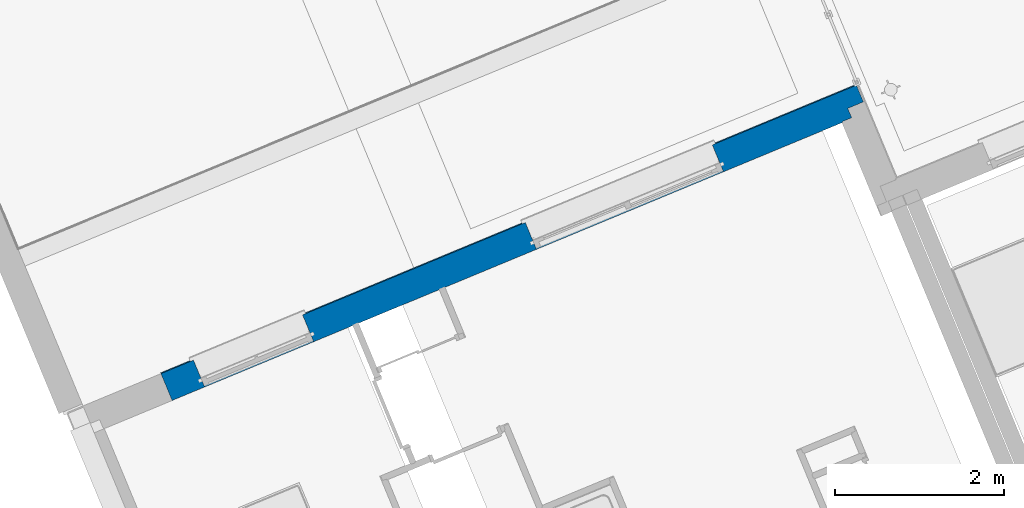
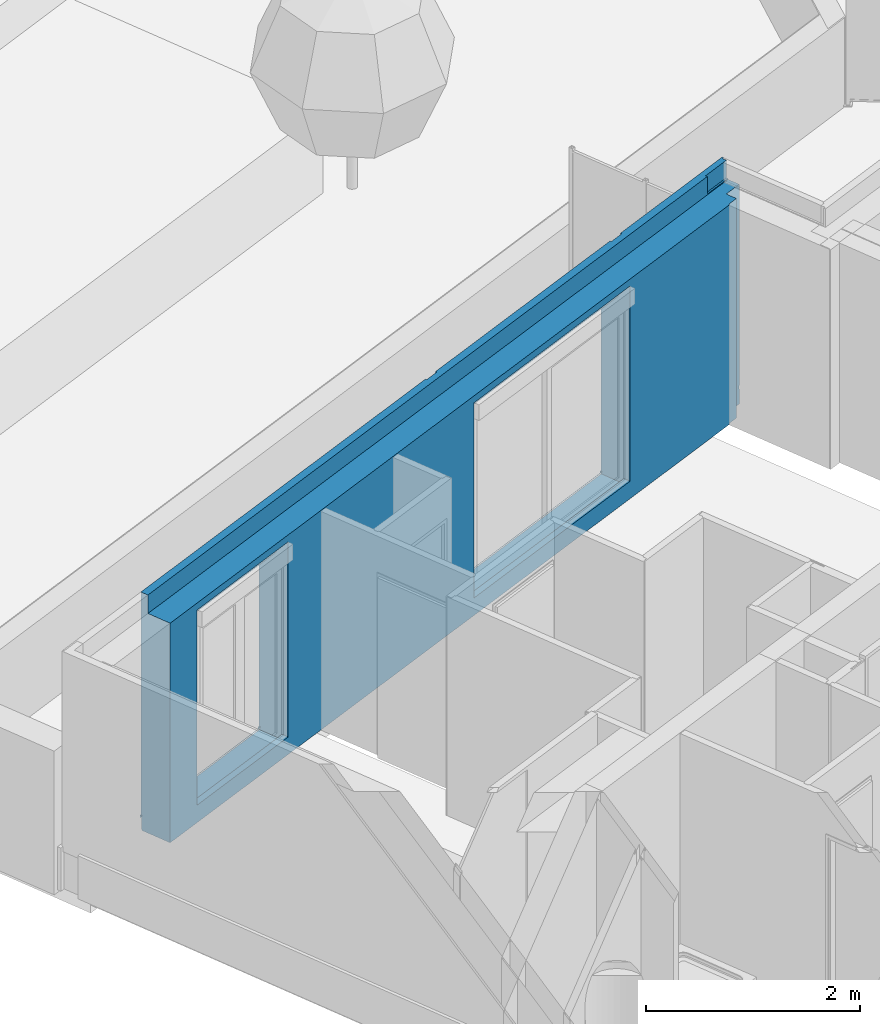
# One storey, part 14 of 119: 1 wall, 2 openings.
"""IFC2X3 building model written with IfcOpenShell, lengths in metres."""

from ifc_helpers import new_model, entity, si_unit, converted_unit, derived_unit, money_unit, direction, frame, origin_with_axes, place, context, subcontext, project, spatial, faceted_brep, material, material_list, type_object, element, save


model = new_model("IFC2X3")

# Units and contexts
model_context = context("Model", 3, precision=1e-05, world=origin_with_axes(), true_north=direction((0.0, 1.0)))
body_context = subcontext(model_context, "Body", "Model", "MODEL_VIEW")
ifc_project = project(units=[si_unit("LENGTHUNIT", "METRE"), si_unit("AREAUNIT", "SQUARE_METRE"), si_unit("VOLUMEUNIT", "CUBIC_METRE"), converted_unit("PLANEANGLEUNIT", "DEGREE", entity("IfcPlaneAngleMeasure", 0.0174532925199), si_unit("PLANEANGLEUNIT", "RADIAN"), dimensions=[0, 0, 0, 0, 0, 0, 0]), si_unit("SOLIDANGLEUNIT", "STERADIAN"), money_unit("EUR"), converted_unit("TIMEUNIT", "Year", entity("IfcTimeMeasure", 31556926.0), si_unit("TIMEUNIT", "SECOND"), dimensions=[0, 0, 1, 0, 0, 0, 0]), si_unit("MASSUNIT", "GRAM", prefix="KILO"), si_unit("THERMODYNAMICTEMPERATUREUNIT", "DEGREE_CELSIUS"), si_unit("LUMINOUSINTENSITYUNIT", "LUMEN"), si_unit("ENERGYUNIT", "JOULE", prefix="MEGA"), derived_unit("THERMALCONDUCTANCEUNIT", [(si_unit("POWERUNIT", "WATT"), 1), (si_unit("LENGTHUNIT", "METRE"), -1), (si_unit("THERMODYNAMICTEMPERATUREUNIT", "KELVIN"), -1)]), derived_unit("SPECIFICHEATCAPACITYUNIT", [(si_unit("ENERGYUNIT", "JOULE"), 1), (si_unit("MASSUNIT", "GRAM", prefix="KILO"), -1), (si_unit("THERMODYNAMICTEMPERATUREUNIT", "KELVIN"), -1)]), derived_unit("MASSDENSITYUNIT", [(si_unit("MASSUNIT", "GRAM", prefix="KILO"), 1), (si_unit("VOLUMEUNIT", "CUBIC_METRE"), -1)])], contexts=[model_context])

# Site, building, storey
site_placement = place(None, origin_with_axes())
site = spatial("IfcSite", under=ifc_project, at=site_placement, Name="Site", CompositionType="ELEMENT")
building_placement = place(site_placement, origin_with_axes())
building = spatial("IfcBuilding", under=site, at=building_placement, Name="Bâtiment", CompositionType="ELEMENT")
storey_placement = place(building_placement, origin_with_axes())
storey = spatial("IfcBuildingStorey", under=building, at=storey_placement, Name="Rez-de-chaussée", CompositionType="ELEMENT", Elevation=0.0)

# Wall, openings
ifc_material_1 = material(Name="Métal - Aluminium")
ifc_material_2 = material(Name="Finition ext - Crépis")
ifc_material_3 = material(Name="Etanchéité - Bitume")
ifc_material_4 = material(Name="Béton cellulaire")
ifc_material_5 = material(Name="Mortier")
ifc_material_6 = material(Name="Isolation - Polystyrène expansé")
ifc_material_7 = material(Name="Bloc ELITHERM")
ifc_material_8 = material(Name="Isolation - Polystyrène extrudé")
ifc_material_9 = material(Name="Finition int - Plaque de plâtre")
ifc_material_list = material_list([ifc_material_1, ifc_material_2, ifc_material_3, ifc_material_4, ifc_material_5, ifc_material_6, ifc_material_7, ifc_material_8, ifc_material_9])
wall_type = type_object("IfcWallType", Name="Mur ALKERN + planelle 21 TERRASSE RDC 356 x 2720", PredefinedType="USERDEFINED")
wall_placement = place(storey_placement, frame((-34.278339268, -17.4731210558, 0.0), z_axis=(0.0, 0.0, 1.0), x_axis=(0.923701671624, 0.383112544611, 0.0)))
wall = element("IfcWall", 1, at=wall_placement, inside=storey, type_object=wall_type, material=ifc_material_list, Name="Mue bloc ALKERN isolé", ObjectType="SOLIDWALL", context=body_context, shape_type="Brep", body=[
    faceted_brep([(7.07743341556, -0.0150000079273, 0.2), (7.07743341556, -0.0160453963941, 0.2), (7.07743341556, -0.0160453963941, 0.207793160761), (7.07743341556, -0.015, 0.207793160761), (7.07743341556, -0.0160453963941, 0.169727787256), (7.07743341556, -0.0150000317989, 0.176532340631), (7.07743341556, -0.015, 0.170774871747), (7.07743341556, 0.0114392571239, 0.16293119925), (7.07743341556, 0.0114392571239, 0.14), (7.07743341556, 0.0102051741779, 0.14), (7.07743341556, 0.0102051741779, 0.161852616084), (7.07743341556, -0.015, 0.169414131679), (8.93154606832, -0.0160453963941, 0.169727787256), (8.92801657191, -0.0160453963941, 0.170774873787), (8.9280165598, -0.0160453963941, 0.176532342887), (8.9280165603, -0.0160453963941, 0.207793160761), (8.9280165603, -0.015, 0.207793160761), (8.9280165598, -0.0150000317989, 0.176532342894), (8.92801657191, -0.015, 0.170774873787), (8.95445586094, 0.0114392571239, 0.162931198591), (8.95445586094, 0.0114392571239, 0.133633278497), (0.0, 0.0114392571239, 0.133633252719), (0.0, 0.0114392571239, 0.162931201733), (0.417748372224, 0.0114392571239, 0.162931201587), (0.417748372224, 0.0114392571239, 0.14), (1.81774837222, 0.0114392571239, 0.14), (1.81774837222, 0.0114392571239, 0.162931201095), (4.67743341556, 0.0114392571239, 0.162931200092), (4.67743341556, 0.0114392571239, 0.14), (4.67743341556, 0.0102051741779, 0.14), (4.67743341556, 0.0102051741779, 0.161852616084), (1.81774837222, 0.0102051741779, 0.161852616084), (1.81774837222, 0.0102051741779, 0.14), (0.417748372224, 0.0102051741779, 0.14), (0.417748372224, 0.0102051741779, 0.161852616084), (0.0, 0.0102051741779, 0.161852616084), (0.0, 0.0102051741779, 0.133633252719), (8.95445586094, 0.0102051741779, 0.133633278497), (8.95445586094, 0.0102051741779, 0.161852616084), (8.95445586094, 0.00660988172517, 0.162931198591), (8.93260333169, -0.015, 0.169414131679), (0.0, -0.0160453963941, 0.207793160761), (0.0, -0.015, 0.207793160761), (0.0, -0.0150000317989, 0.176532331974), (0.0, -0.015, 0.170774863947), (0.0, -0.015, 0.169414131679), (0.0, -0.0160453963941, 0.169727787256), (0.417748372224, -0.015, 0.170774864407), (0.417748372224, -0.0150000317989, 0.176532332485), (0.417748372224, -0.0150000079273, 0.2), (0.417748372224, -0.0160453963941, 0.2), (0.417748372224, -0.0160453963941, 0.169727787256), (0.417748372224, -0.015, 0.169414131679), (1.81774837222, -0.015, 0.17077486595), (1.81774837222, -0.015, 0.169414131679), (1.81774837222, -0.0160453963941, 0.169727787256), (1.81774837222, -0.0160453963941, 0.2), (1.81774837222, -0.0150000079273, 0.2), (1.81774837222, -0.0150000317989, 0.176532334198), (4.67743341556, -0.015, 0.170774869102), (4.67743341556, -0.0150000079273, 0.2), (4.67743341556, -0.0160453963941, 0.2), (4.67743341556, -0.0160453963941, 0.169727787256), (4.67743341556, -0.015, 0.169414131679), (4.67743341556, -0.0150000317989, 0.176532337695), (0.417748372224, -0.0160453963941, 0.207793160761), (0.417748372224, -0.015, 0.207793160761), (4.67743341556, -0.0160453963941, 0.207793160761), (1.81774837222, -0.0160453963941, 0.207793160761), (1.81774837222, -0.015, 0.207793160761), (4.67743341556, -0.015, 0.207793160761)], [[[0, 1, 2, 3]], [[4, 1, 0, 5, 6, 7, 8, 9, 10, 11]], [[1, 4, 12, 13, 14, 15, 2]], [[2, 15, 16, 3]], [[5, 0, 3, 16, 17]], [[6, 5, 17, 18]], [[7, 6, 18, 19]], [[8, 7, 19, 20, 21, 22, 23, 24, 25, 26, 27, 28]], [[29, 9, 8, 28]], [[29, 30, 31, 32, 33, 34, 35, 36, 37, 38, 10, 9]], [[11, 10, 38, 39, 40]], [[4, 11, 40, 12]], [[12, 40, 39, 19, 18, 13]], [[17, 14, 13, 18]], [[16, 15, 14, 17]], [[37, 20, 19, 39, 38]], [[21, 20, 37, 36]], [[41, 42, 43, 44, 22, 21, 36, 35, 45, 46]], [[22, 44, 47, 23]], [[34, 33, 24, 23, 47, 48, 49, 50, 51, 52]], [[25, 24, 33, 32]], [[53, 26, 25, 32, 31, 54, 55, 56, 57, 58]], [[59, 27, 26, 53]], [[60, 61, 62, 63, 30, 29, 28, 27, 59, 64]], [[30, 63, 54, 31]], [[45, 35, 34, 52]], [[41, 65, 66, 42]], [[66, 49, 48, 43, 42]], [[44, 43, 48, 47]], [[46, 45, 52, 51]], [[46, 51, 50, 65, 41]], [[66, 65, 50, 49]], [[63, 62, 55, 54]], [[62, 61, 67, 68, 56, 55]], [[68, 69, 57, 56]], [[60, 64, 58, 57, 69, 70]], [[64, 59, 53, 58]], [[61, 60, 70, 67]], [[70, 69, 68, 67]]]),
    faceted_brep([(7.07743341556, -0.0149999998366, 0.2), (7.07743341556, -0.0150000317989, 0.176532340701), (8.94301662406, -0.0150000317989, 0.176532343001), (8.94301662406, -0.0150000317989, 2.51), (8.94301660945, -0.0149999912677, 2.71999999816), (7.37743341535, -0.0150000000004, 2.72), (7.37743341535, -0.0150000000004, 2.51999999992), (7.37743341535, -0.0150000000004, 2.51872065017), (7.37743341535, -0.0150000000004, 2.51), (7.36243341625, -0.0150000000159, 2.51), (7.34269243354, -0.0150000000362, 2.51), (7.21743341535, -0.0150000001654, 2.51), (7.21743341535, -0.0150000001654, 2.51872065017), (7.21743341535, -0.0150000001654, 2.51999999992), (7.21743341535, -0.0150000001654, 2.72), (4.53743341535, -0.0149999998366, 2.72), (4.53743341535, -0.0149999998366, 2.51999999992), (4.53743341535, -0.0149999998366, 2.50955), (4.53743341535, -0.0149999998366, 2.50872065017), (4.53743341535, -0.0149999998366, 2.5), (4.41217439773, -0.0149999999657, 2.5), (4.39243341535, -0.0149999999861, 2.5), (4.37743341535, -0.0150000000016, 2.5), (4.37743341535, -0.0150000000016, 2.50872065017), (4.37743341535, -0.0150000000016, 2.50955), (4.37743341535, -0.0150000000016, 2.51999999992), (4.37743341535, -0.0150000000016, 2.72), (0.0, -0.0149999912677, 2.72), (0.0, -0.0150000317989, 0.176532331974), (0.417748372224, -0.0150000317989, 0.176532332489), (0.417748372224, -0.0149999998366, 0.2), (0.417748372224, -0.0149999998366, 2.25), (1.81774837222, -0.0149999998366, 2.25), (1.81774837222, -0.0149999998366, 0.2), (1.81774837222, -0.0150000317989, 0.176532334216), (4.67743341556, -0.0150000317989, 0.176532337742), (4.67743341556, -0.0149999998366, 0.2), (4.67743341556, -0.0149999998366, 2.25), (7.07743341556, -0.0149999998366, 2.25), (7.07743341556, -3.18861737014e-09, 0.2), (7.07743341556, -3.18861737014e-09, 0.176532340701), (8.94301662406, -3.1886191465e-09, 0.176532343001), (8.94301662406, -3.1886191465e-09, 2.51), (8.94301660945, -3.1886191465e-09, 2.71999999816), (7.37743341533, -3.18862092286e-09, 2.72), (7.37743341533, -3.18862092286e-09, 2.51999999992), (7.37743341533, -3.18862092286e-09, 2.51872065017), (7.37743341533, -3.18862092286e-09, 2.51), (7.36243341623, -3.1886191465e-09, 2.51), (7.34269243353, -3.1886191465e-09, 2.51), (7.21743341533, -3.1886191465e-09, 2.51), (7.21743341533, -3.1886191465e-09, 2.51872065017), (7.21743341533, -3.1886191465e-09, 2.51999999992), (7.21743341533, -3.1886191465e-09, 2.72), (4.53743341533, -3.18862092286e-09, 2.72), (4.53743341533, -3.1886191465e-09, 2.51999999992), (4.53743341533, -3.1886191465e-09, 2.50955), (4.53743341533, -3.1886191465e-09, 2.50872065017), (4.53743341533, -3.1886191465e-09, 2.5), (4.41217439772, -3.1886191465e-09, 2.5), (4.39243341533, -3.1886191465e-09, 2.5), (4.37743341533, -3.1886191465e-09, 2.5), (4.37743341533, -3.1886191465e-09, 2.50872065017), (4.37743341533, -3.1886191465e-09, 2.50955), (4.37743341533, -3.1886191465e-09, 2.51999999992), (4.37743341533, -3.1886191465e-09, 2.72), (0.0, -3.1886191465e-09, 2.72), (0.0, -3.1886191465e-09, 0.176532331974), (0.417748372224, -3.18862092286e-09, 0.176532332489), (0.417748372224, -3.18862092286e-09, 0.2), (0.417748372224, -3.18862092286e-09, 2.25), (1.81774837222, -3.18862092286e-09, 2.25), (1.81774837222, -3.18862092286e-09, 0.2), (1.81774837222, -3.18861737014e-09, 0.176532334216), (4.67743341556, -3.1886191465e-09, 0.176532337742), (4.67743341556, -3.1886191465e-09, 0.2), (4.67743341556, -3.1886191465e-09, 2.25), (7.07743341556, -3.18861737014e-09, 2.25)], [[[0, 1, 2, 3, 4, 5, 6, 7, 8, 9, 10, 11, 12, 13, 14, 15, 16, 17, 18, 19, 20, 21, 22, 23, 24, 25, 26, 27, 28, 29, 30, 31, 32, 33, 34, 35, 36, 37, 38]], [[1, 0, 39, 40]], [[1, 40, 41, 2]], [[41, 42, 3, 2]], [[4, 3, 42, 43]], [[44, 5, 4, 43]], [[6, 5, 44, 45]], [[6, 45, 46, 7]], [[7, 46, 47, 8]], [[48, 9, 8, 47]], [[49, 10, 9, 48]], [[11, 10, 49, 50]], [[51, 12, 11, 50]], [[52, 13, 12, 51]], [[53, 14, 13, 52]], [[54, 15, 14, 53]], [[16, 15, 54, 55]], [[16, 55, 56, 17]], [[17, 56, 57, 18]], [[18, 57, 58, 19]], [[59, 20, 19, 58]], [[60, 21, 20, 59]], [[22, 21, 60, 61]], [[62, 23, 22, 61]], [[63, 24, 23, 62]], [[64, 25, 24, 63]], [[65, 26, 25, 64]], [[26, 65, 66, 27]], [[28, 27, 66, 67]], [[28, 67, 68, 29]], [[29, 68, 69, 30]], [[70, 31, 30, 69]], [[71, 32, 31, 70]], [[32, 71, 72, 33]], [[72, 73, 34, 33]], [[74, 35, 34, 73]], [[75, 36, 35, 74]], [[36, 75, 76, 37]], [[37, 76, 77, 38]], [[39, 0, 38, 77]], [[40, 39, 77, 76, 75, 74, 73, 72, 71, 70, 69, 68, 67, 66, 65, 64, 63, 62, 61, 60, 59, 58, 57, 56, 55, 54, 53, 52, 51, 50, 49, 48, 47, 46, 45, 44, 43, 42, 41]]]),
    faceted_brep([(7.07743341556, -0.005, 0.160000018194), (7.07743341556, -0.0150000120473, 0.160000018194), (8.93801659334, -0.0150000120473, 0.160000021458), (8.93801659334, -0.005, 0.160000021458), (7.07743341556, -0.0149999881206, 0.14), (7.07743341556, -0.005, 0.14), (4.67743341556, -0.0149999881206, 0.14), (4.67743341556, -0.0150000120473, 0.160000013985), (1.81774837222, -0.0150000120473, 0.160000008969), (1.81774837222, -0.0149999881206, 0.14), (0.417748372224, -0.0149999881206, 0.14), (0.417748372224, -0.0150000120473, 0.160000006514), (0.0, -0.0150000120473, 0.160000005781), (0.0, -0.0149999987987, 0.01), (8.93801658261, -0.0150000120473, 0.01), (8.93801659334, -0.0150000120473, 0.133633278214), (8.93801659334, -0.005, 0.133633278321), (8.93801658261, -0.005, 0.01), (0.0, -0.005, 0.01), (0.0, -0.005, 0.160000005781), (0.417748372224, -0.00500000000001, 0.160000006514), (0.417748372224, -0.005, 0.14), (1.81774837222, -0.005, 0.14), (1.81774837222, -0.005, 0.160000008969), (4.67743341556, -0.005, 0.160000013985), (4.67743341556, -0.005, 0.14)], [[[0, 1, 2, 3]], [[4, 1, 0, 5]], [[6, 7, 8, 9, 10, 11, 12, 13, 14, 15, 2, 1, 4]], [[2, 15, 16, 3]], [[5, 0, 3, 16, 17, 18, 19, 20, 21, 22, 23, 24, 25]], [[6, 4, 5, 25]], [[24, 7, 6, 25]], [[7, 24, 23, 8]], [[8, 23, 22, 9]], [[9, 22, 21, 10]], [[11, 10, 21, 20]], [[20, 19, 12, 11]], [[12, 19, 18, 13]], [[13, 18, 17, 14]], [[16, 15, 14, 17]]]),
    faceted_brep([(8.92801659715, -0.0630000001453, 2.51999999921), (8.92801660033, -0.0630000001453, 2.71999999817), (0.0, -0.0630000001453, 2.72), (0.0, -0.0630000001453, 2.51999999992), (8.92801660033, -0.0149999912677, 2.71999999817), (8.92801659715, -0.0149999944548, 2.51999999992), (0.0, -0.015, 2.72), (0.0, -0.015, 2.51999999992)], [[[0, 1, 2, 3]], [[4, 1, 0, 5]], [[1, 4, 6, 2]], [[7, 3, 2, 6]], [[5, 0, 3, 7]], [[4, 5, 7, 6]]]),
    faceted_brep([(8.92801659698, -0.083, 2.50955000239), (8.92801659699, -0.083, 2.51), (8.92801659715, -0.083, 2.51999999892), (0.0, -0.083, 2.52), (0.0, -0.083, 2.50955), (8.92801659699, -0.0149999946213, 2.51), (8.92801659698, -0.015, 2.50955000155), (8.92801659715, -0.0149999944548, 2.51999999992), (0.0, -0.015, 2.52), (0.0, -0.015, 2.50955)], [[[0, 1, 2, 3, 4]], [[5, 1, 0, 6]], [[1, 5, 7, 2]], [[2, 7, 8, 3]], [[4, 3, 8, 9]], [[6, 0, 4, 9]], [[5, 6, 9, 8, 7]]]),
    faceted_brep([(8.60801659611, -0.0830000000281, 2.51999999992), (8.60801659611, -0.0830000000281, 2.71999999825), (0.0, -0.0830000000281, 2.72), (0.0, -0.0830000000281, 2.51999999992), (8.6080165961, -0.0630000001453, 2.71999999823), (8.6080165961, -0.0630000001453, 2.51999999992), (0.0, -0.0630000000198, 2.72), (0.0, -0.0630000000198, 2.51999999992)], [[[0, 1, 2, 3]], [[4, 1, 0, 5]], [[1, 4, 6, 2]], [[2, 6, 7, 3]], [[5, 0, 3, 7]], [[4, 5, 7, 6]]]),
    faceted_brep([(7.07743341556, -0.0160453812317, 0.2), (7.07743341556, -0.214999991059, 0.2), (7.07743341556, -0.214999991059, 2.25), (7.07743341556, -0.203560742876, 2.25), (7.07743341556, -0.015, 2.25), (7.07743341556, -0.015, 0.207793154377), (7.07743341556, -0.0160453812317, 0.20779315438), (7.07743341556, -0.214999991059, 0.14), (7.07743341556, -0.0160453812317, 0.169727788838), (7.07743341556, -0.015, 0.169414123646), (7.07743341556, -0.0150000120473, 0.160000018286), (7.07743341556, -0.0150000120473, 0.14), (8.92801657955, -0.214999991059, 0.0), (8.92801657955, -0.214999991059, 0.133633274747), (8.92801657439, -0.214999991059, 0.160000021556), (8.9280166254, -0.214999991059, 0.169414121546), (8.92697119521, -0.214999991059, 0.169727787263), (8.92697119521, -0.214999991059, 0.176532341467), (8.92697119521, -0.214999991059, 0.207793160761), (8.9280165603, -0.214999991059, 0.207793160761), (8.92801659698, -0.214999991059, 2.50955000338), (0.0, -0.214999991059, 2.50955001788), (0.0, -0.214999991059, 0.0), (1.81774837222, -0.214999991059, 0.14), (0.417748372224, -0.214999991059, 0.14), (0.417748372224, -0.214999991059, 0.2), (0.417748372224, -0.214999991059, 2.25), (0.417748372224, -0.214999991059, 2.43), (1.81774837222, -0.214999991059, 2.43), (1.81774837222, -0.214999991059, 2.25), (1.81774837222, -0.214999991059, 0.2), (4.67743341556, -0.214999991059, 0.14), (4.67743341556, -0.214999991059, 0.2), (4.67743341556, -0.214999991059, 2.25), (4.67743341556, -0.214999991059, 2.43), (7.07743341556, -0.214999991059, 2.43), (7.07743341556, -0.203560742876, 2.43), (4.67743341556, -0.203560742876, 2.25), (4.67743341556, -0.015, 2.25), (0.0, -0.015, 0.207793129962), (0.0, -0.015, 2.50955001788), (8.92801659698, -0.015, 2.50955000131), (8.9280165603, -0.015, 0.207793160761), (4.67743341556, -0.015, 0.207793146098), (1.81774837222, -0.015, 0.207793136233), (1.81774837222, -0.015, 2.25), (0.417748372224, -0.015, 2.25), (0.417748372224, -0.015, 0.207793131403), (8.92697119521, -0.0160453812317, 0.207793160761), (8.9280165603, -0.0160453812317, 0.207793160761), (8.92697119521, -0.0160453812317, 0.176532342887), (8.92697119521, -0.0160453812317, 0.169727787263), (8.9280166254, -0.015, 0.169414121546), (8.92801657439, -0.0150000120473, 0.160000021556), (8.92801657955, -0.0150000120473, 0.133633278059), (8.92801657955, -0.015, 0.0), (0.0, -0.015, 0.0), (0.0, -0.0150000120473, 0.160000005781), (0.417748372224, -0.0150000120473, 0.160000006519), (0.417748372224, -0.015, 0.14), (1.81774837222, -0.015, 0.14), (1.81774837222, -0.0150000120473, 0.160000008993), (4.67743341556, -0.0150000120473, 0.160000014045), (4.67743341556, -0.0150000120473, 0.14), (8.92801659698, -0.0829999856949, 2.50955000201), (0.0, -0.0829999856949, 2.50955001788), (0.0, -0.0160453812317, 0.207793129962), (0.0, -0.0160453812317, 0.169727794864), (0.0, -0.015, 0.169414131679), (0.417748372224, -0.015, 0.169414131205), (0.417748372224, -0.0160453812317, 0.169727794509), (0.417748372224, -0.0160453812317, 0.2), (0.417748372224, -0.203560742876, 2.25), (0.417748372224, -0.0160453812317, 0.207793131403), (0.417748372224, -0.203560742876, 2.43), (1.81774837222, -0.203560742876, 2.43), (1.81774837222, -0.203560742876, 2.25), (1.81774837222, -0.0160453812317, 0.207793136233), (1.81774837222, -0.0160453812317, 0.2), (1.81774837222, -0.0160453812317, 0.169727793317), (1.81774837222, -0.015, 0.169414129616), (4.67743341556, -0.0160453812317, 0.2), (4.67743341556, -0.015, 0.16941412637), (4.67743341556, -0.0160453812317, 0.169727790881), (4.67743341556, -0.0160453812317, 0.2077931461), (4.67743341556, -0.203560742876, 2.43)], [[[0, 1, 2, 3, 4, 5, 6]], [[7, 1, 0, 8, 9, 10, 11]], [[12, 13, 14, 15, 16, 17, 18, 19, 20, 21, 22], [23, 24, 25, 26, 27, 28, 29, 30], [31, 32, 33, 34, 35, 2, 1, 7]], [[35, 36, 3, 2]], [[37, 38, 4, 3]], [[39, 40, 41, 42, 5, 4, 38, 43, 44, 45, 46, 47]], [[48, 6, 5, 42, 49]], [[8, 0, 6, 48, 50, 51]], [[9, 8, 51, 52]], [[10, 9, 52, 53]], [[11, 10, 53, 54, 55, 56, 57, 58, 59, 60, 61, 62, 63]], [[31, 7, 11, 63]], [[54, 13, 12, 55]], [[13, 54, 53, 14]], [[53, 52, 15, 14]], [[51, 16, 15, 52]], [[17, 16, 51, 50]], [[17, 50, 48, 18]], [[18, 48, 49, 19]], [[64, 20, 19, 49, 42, 41]], [[65, 21, 20, 64]], [[57, 56, 22, 21, 65, 40, 39, 66, 67, 68]], [[12, 22, 56, 55]], [[59, 24, 23, 60]], [[69, 70, 71, 25, 24, 59, 58]], [[72, 26, 25, 71, 73, 47, 46]], [[27, 26, 72, 74]], [[28, 27, 74, 75]], [[29, 28, 75, 76]], [[44, 77, 78, 30, 29, 76, 45]], [[61, 60, 23, 30, 78, 79, 80]], [[81, 32, 31, 63, 62, 82, 83]], [[32, 81, 84, 43, 38, 37, 33]], [[33, 37, 85, 34]], [[34, 85, 36, 35]], [[3, 36, 85, 37]], [[40, 65, 64, 41]], [[77, 44, 43, 84]], [[76, 72, 46, 45]], [[73, 66, 39, 47]], [[68, 69, 58, 57]], [[82, 62, 61, 80]], [[70, 67, 66, 73, 71]], [[67, 70, 69, 68]], [[72, 76, 75, 74]], [[81, 83, 79, 78, 77, 84]], [[83, 82, 80, 79]]]),
    faceted_brep([(7.07743341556, -0.233560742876, 0.2), (7.07743341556, -0.274560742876, 0.2), (7.07743341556, -0.335000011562, 0.2), (7.07743341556, -0.335000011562, 2.25), (7.07743341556, -0.233560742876, 2.25), (7.07743341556, -0.21499997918, 0.2), (7.07743341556, -0.21499997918, 0.14), (7.07743341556, -0.274560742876, 0.14), (4.67743341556, -0.274560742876, 0.2), (4.67743341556, -0.335000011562, 0.2), (0.0, -0.335000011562, 2.50955001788), (0.0, -0.335000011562, 0.0), (8.72801660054, -0.335000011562, 0.0), (8.72801660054, -0.335000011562, 0.133633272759), (8.72801660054, -0.335000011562, 0.160000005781), (8.72801660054, -0.335000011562, 0.169414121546), (8.72801660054, -0.335000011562, 0.17653234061), (8.72801660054, -0.335000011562, 0.207793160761), (8.72801660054, -0.335000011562, 2.50955001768), (1.81774837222, -0.335000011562, 2.25), (1.81774837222, -0.335000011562, 0.2), (0.417748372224, -0.335000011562, 0.2), (0.417748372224, -0.335000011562, 2.25), (0.417748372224, -0.335000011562, 2.43), (1.81774837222, -0.335000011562, 2.43), (4.67743341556, -0.335000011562, 2.25), (4.67743341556, -0.335000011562, 2.43), (7.07743341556, -0.335000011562, 2.43), (7.07743341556, -0.21499997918, 2.43), (7.07743341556, -0.21499997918, 2.25), (8.72801660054, -0.21499997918, 0.176532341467), (8.72801660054, -0.21499997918, 0.169414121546), (8.72801660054, -0.21499997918, 0.160000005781), (8.72801660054, -0.21499997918, 0.133633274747), (8.72801660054, -0.21499997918, 0.0), (0.0, -0.21499997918, 0.0), (0.0, -0.21499997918, 2.50955001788), (8.72801660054, -0.21499997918, 2.50955001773), (8.72801660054, -0.21499997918, 0.207793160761), (0.417748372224, -0.21499997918, 2.43), (0.417748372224, -0.21499997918, 2.25), (0.417748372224, -0.21499997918, 0.2), (0.417748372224, -0.21499997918, 0.14), (1.81774837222, -0.21499997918, 0.14), (1.81774837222, -0.21499997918, 0.2), (1.81774837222, -0.21499997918, 2.25), (1.81774837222, -0.21499997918, 2.43), (4.67743341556, -0.21499997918, 2.43), (4.67743341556, -0.21499997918, 2.25), (4.67743341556, -0.21499997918, 0.2), (4.67743341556, -0.21499997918, 0.14), (4.67743341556, -0.274560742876, 0.14), (4.67743341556, -0.233560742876, 0.2), (4.67743341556, -0.233560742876, 2.25), (1.81774837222, -0.233560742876, 2.25), (1.81774837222, -0.233560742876, 0.2), (1.81774837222, -0.274560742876, 0.2), (0.417748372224, -0.274560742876, 0.2), (0.417748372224, -0.233560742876, 0.2), (0.417748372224, -0.233560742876, 2.25), (0.417748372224, -0.274560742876, 0.14), (1.81774837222, -0.274560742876, 0.14)], [[[0, 1, 2, 3, 4]], [[1, 0, 5, 6, 7]], [[1, 8, 9, 2]], [[10, 11, 12, 13, 14, 15, 16, 17, 18], [19, 20, 21, 22, 23, 24], [3, 2, 9, 25, 26, 27]], [[28, 29, 4, 3, 27]], [[5, 0, 4, 29]], [[30, 31, 32, 33, 34, 35, 36, 37, 38], [39, 40, 41, 42, 43, 44, 45, 46], [6, 5, 29, 28, 47, 48, 49, 50]], [[6, 50, 51, 7]], [[8, 1, 7, 51]], [[8, 52, 53, 25, 9]], [[10, 36, 35, 11]], [[12, 11, 35, 34]], [[13, 12, 34, 33]], [[32, 14, 13, 33]], [[14, 32, 31, 15]], [[16, 15, 31, 30]], [[30, 38, 17, 16]], [[38, 37, 18, 17]], [[10, 18, 37, 36]], [[19, 54, 55, 56, 20]], [[56, 57, 21, 20]], [[22, 21, 57, 58, 59]], [[23, 22, 59, 40, 39]], [[23, 39, 46, 24]], [[19, 24, 46, 45, 54]], [[53, 48, 47, 26, 25]], [[26, 47, 28, 27]], [[58, 41, 40, 59]], [[42, 41, 58, 57, 60]], [[43, 42, 60, 61]], [[43, 61, 56, 55, 44]], [[44, 55, 54, 45]], [[52, 49, 48, 53]], [[52, 8, 51, 50, 49]], [[57, 56, 61, 60]]]),
    faceted_brep([(8.60801658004, -0.344999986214, 0.133633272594), (8.60801658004, -0.344999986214, 0.160000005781), (8.60801658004, -0.344999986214, 0.169414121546), (8.60801658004, -0.344999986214, 0.176532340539), (8.60801658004, -0.344999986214, 0.207793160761), (8.60801658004, -0.344999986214, 2.50955001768), (0.0, -0.344999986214, 2.50955001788), (0.0, -0.344999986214, 0.0), (8.60801658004, -0.344999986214, 0.0), (0.417748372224, -0.344999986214, 2.25), (0.417748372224, -0.344999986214, 2.43), (1.81774837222, -0.344999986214, 2.43), (1.81774837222, -0.344999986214, 2.25), (1.81774837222, -0.344999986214, 0.2), (0.417748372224, -0.344999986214, 0.2), (4.67743341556, -0.344999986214, 2.25), (4.67743341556, -0.344999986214, 2.43), (7.07743341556, -0.344999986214, 2.43), (7.07743341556, -0.344999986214, 2.25), (7.07743341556, -0.344999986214, 0.2), (4.67743341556, -0.344999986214, 0.2), (8.60801658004, -0.335000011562, 0.133633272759), (8.60801658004, -0.335000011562, 0.160000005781), (8.60801658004, -0.335000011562, 0.169414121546), (8.60801658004, -0.335000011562, 0.17653234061), (8.60801658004, -0.335000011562, 0.207793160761), (8.60801658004, -0.335000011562, 2.50955001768), (0.0, -0.335000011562, 2.50955001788), (0.0, -0.335000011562, 0.0), (8.60801658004, -0.335000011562, 0.0), (0.417748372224, -0.335000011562, 2.25), (0.417748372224, -0.335000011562, 2.43), (1.81774837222, -0.335000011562, 2.43), (1.81774837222, -0.335000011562, 2.25), (1.81774837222, -0.335000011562, 0.2), (0.417748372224, -0.335000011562, 0.2), (4.67743341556, -0.335000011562, 2.25), (4.67743341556, -0.335000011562, 2.43), (7.07743341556, -0.335000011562, 2.43), (7.07743341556, -0.335000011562, 2.25), (7.07743341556, -0.335000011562, 0.2), (4.67743341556, -0.335000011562, 0.2)], [[[0, 1, 2, 3, 4, 5, 6, 7, 8], [9, 10, 11, 12, 13, 14], [15, 16, 17, 18, 19, 20]], [[1, 0, 21, 22]], [[23, 2, 1, 22]], [[24, 3, 2, 23]], [[24, 25, 4, 3]], [[25, 26, 5, 4]], [[6, 5, 26, 27]], [[7, 6, 27, 28]], [[29, 8, 7, 28]], [[0, 8, 29, 21]], [[30, 31, 10, 9]], [[31, 32, 11, 10]], [[32, 33, 12, 11]], [[34, 13, 12, 33]], [[35, 14, 13, 34]], [[14, 35, 30, 9]], [[16, 15, 36, 37]], [[17, 16, 37, 38]], [[18, 17, 38, 39]], [[18, 39, 40, 19]], [[19, 40, 41, 20]], [[36, 15, 20, 41]], [[21, 29, 28, 27, 26, 25, 24, 23, 22], [31, 30, 35, 34, 33, 32], [37, 36, 41, 40, 39, 38]]]),
])
opening_1_placement = place(wall_placement, frame((1.11774837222, 0.0, 0.2), z_axis=(0.0, 0.0, 1.0), x_axis=(1.0, 0.0, 0.0)))
element("IfcOpeningElement", 2, at=opening_1_placement, cuts=wall, Name="MEN 21", context=body_context, shape_type="Brep", body=[
    faceted_brep([(0.7, -0.834999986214, 0.0), (-0.7, -0.834999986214, 0.0), (-0.7, -0.233560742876, 0.0), (0.7, -0.233560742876, 0.0), (0.7, -0.834999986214, 2.05), (-0.7, -0.834999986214, 2.05), (-0.7, -0.233560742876, 2.05), (0.7, -0.233560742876, 2.05)], [[[0, 1, 2, 3]], [[0, 4, 5, 1]], [[1, 5, 6, 2]], [[3, 2, 6, 7]], [[4, 0, 3, 7]], [[5, 4, 7, 6]]]),
    faceted_brep([(0.7, 0.367878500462, 0.0), (0.7, 0.367878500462, 2.05), (0.7, -0.233560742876, 2.05), (0.7, -0.233560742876, 0.0), (-0.7, 0.367878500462, 0.0), (-0.7, 0.367878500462, 2.05), (-0.7, -0.233560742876, 2.05), (-0.7, -0.233560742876, 0.0)], [[[0, 1, 2, 3]], [[0, 4, 5, 1]], [[1, 5, 6, 2]], [[3, 2, 6, 7]], [[4, 0, 3, 7]], [[5, 4, 7, 6]]]),
    faceted_brep([(0.7, 0.367878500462, 0.0), (0.7, 0.367878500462, 2.05), (0.7, -0.233560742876, 2.05), (0.7, -0.233560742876, 0.0), (-0.7, 0.367878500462, 0.0), (-0.7, 0.367878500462, 2.05), (-0.7, -0.233560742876, 2.05), (-0.7, -0.233560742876, 0.0)], [[[0, 1, 2, 3]], [[0, 4, 5, 1]], [[1, 5, 6, 2]], [[3, 2, 6, 7]], [[4, 0, 3, 7]], [[5, 4, 7, 6]]]),
    faceted_brep([(0.7, -0.804999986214, 2.05), (-0.7, -0.804999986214, 2.05), (-0.7, -0.203560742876, 2.05), (0.7, -0.203560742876, 2.05), (0.7, -0.804999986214, 2.23), (-0.7, -0.804999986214, 2.23), (-0.7, -0.203560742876, 2.23), (0.7, -0.203560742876, 2.23)], [[[0, 1, 2, 3]], [[0, 4, 5, 1]], [[1, 5, 6, 2]], [[3, 2, 6, 7]], [[4, 0, 3, 7]], [[5, 4, 7, 6]]]),
    faceted_brep([(0.7, 0.326878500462, 0.0), (-0.7, 0.326878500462, 0.0), (-0.7, -0.274560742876, 0.0), (0.7, -0.274560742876, 0.0), (0.7, 0.326878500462, -0.06), (-0.7, 0.326878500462, -0.06), (-0.7, -0.274560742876, -0.06), (0.7, -0.274560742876, -0.06)], [[[0, 1, 2, 3]], [[0, 4, 5, 1]], [[1, 5, 6, 2]], [[3, 2, 6, 7]], [[4, 0, 3, 7]], [[5, 4, 7, 6]]]),
])
opening_2_placement = place(wall_placement, frame((5.87743341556, 0.0, 0.2), z_axis=(0.0, 0.0, 1.0), x_axis=(1.0, 0.0, 0.0)))
element("IfcOpeningElement", 3, at=opening_2_placement, cuts=wall, Name="MEN 20", context=body_context, shape_type="Brep", body=[
    faceted_brep([(-1.2, -0.233560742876, 0.0), (1.2, -0.233560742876, 0.0), (1.2, -0.834999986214, 0.0), (-1.2, -0.834999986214, 0.0), (-1.2, -0.233560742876, 2.05), (1.2, -0.233560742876, 2.05), (1.2, -0.834999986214, 2.05), (-1.2, -0.834999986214, 2.05)], [[[0, 1, 2, 3]], [[0, 4, 5, 1]], [[1, 5, 6, 2]], [[3, 2, 6, 7]], [[4, 0, 3, 7]], [[5, 4, 7, 6]]]),
    faceted_brep([(-1.2, -0.233560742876, 0.0), (-1.2, -0.233560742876, 2.05), (-1.2, 0.367878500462, 2.05), (-1.2, 0.367878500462, 0.0), (1.2, -0.233560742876, 0.0), (1.2, -0.233560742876, 2.05), (1.2, 0.367878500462, 2.05), (1.2, 0.367878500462, 0.0)], [[[0, 1, 2, 3]], [[0, 4, 5, 1]], [[1, 5, 6, 2]], [[3, 2, 6, 7]], [[4, 0, 3, 7]], [[5, 4, 7, 6]]]),
    faceted_brep([(-1.2, -0.233560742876, 0.0), (-1.2, -0.233560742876, 2.05), (-1.2, 0.367878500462, 2.05), (-1.2, 0.367878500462, 0.0), (1.2, -0.233560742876, 0.0), (1.2, -0.233560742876, 2.05), (1.2, 0.367878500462, 2.05), (1.2, 0.367878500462, 0.0)], [[[0, 1, 2, 3]], [[0, 4, 5, 1]], [[1, 5, 6, 2]], [[3, 2, 6, 7]], [[4, 0, 3, 7]], [[5, 4, 7, 6]]]),
    faceted_brep([(-1.2, -0.203560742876, 2.05), (1.2, -0.203560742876, 2.05), (1.2, -0.804999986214, 2.05), (-1.2, -0.804999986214, 2.05), (-1.2, -0.203560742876, 2.23), (1.2, -0.203560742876, 2.23), (1.2, -0.804999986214, 2.23), (-1.2, -0.804999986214, 2.23)], [[[0, 1, 2, 3]], [[0, 4, 5, 1]], [[1, 5, 6, 2]], [[3, 2, 6, 7]], [[4, 0, 3, 7]], [[5, 4, 7, 6]]]),
    faceted_brep([(-1.2, -0.274560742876, 0.0), (1.2, -0.274560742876, 0.0), (1.2, 0.326878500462, 0.0), (-1.2, 0.326878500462, 0.0), (-1.2, -0.274560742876, -0.06), (1.2, -0.274560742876, -0.06), (1.2, 0.326878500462, -0.06), (-1.2, 0.326878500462, -0.06)], [[[0, 1, 2, 3]], [[0, 4, 5, 1]], [[1, 5, 6, 2]], [[3, 2, 6, 7]], [[4, 0, 3, 7]], [[5, 4, 7, 6]]]),
])

save(model, "model.ifc")
